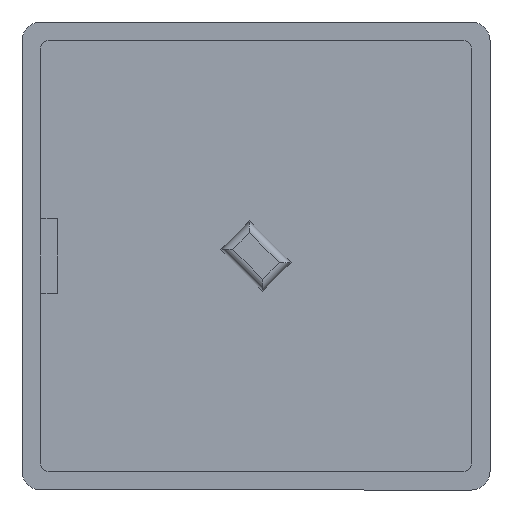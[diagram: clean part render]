
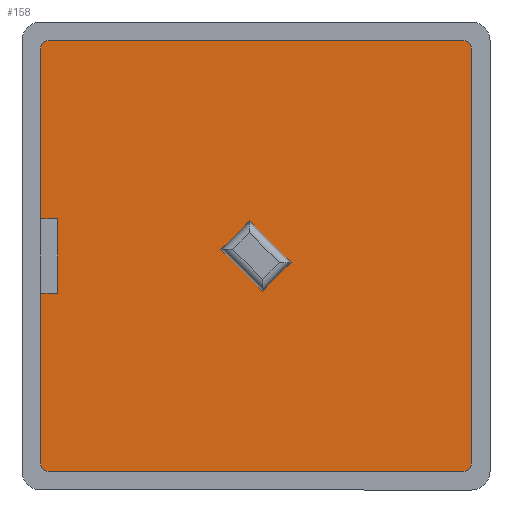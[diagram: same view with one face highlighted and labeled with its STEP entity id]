
A CAD part, front view. The second image highlights one B-rep face of the part: STEP entity #158.
In plain terms, the highlighted planar face has unit normal (0, -1, 0).
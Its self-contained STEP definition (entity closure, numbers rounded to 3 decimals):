
#9 = EDGE_CURVE ( 'NONE', #593, #1173, #801, .T. ) ;
#15 = LINE ( 'NONE', #326, #843 ) ;
#21 = EDGE_CURVE ( 'NONE', #1173, #535, #523, .T. ) ;
#26 = CARTESIAN_POINT ( 'NONE',  ( -23., 0., 22.2 ) ) ;
#36 = EDGE_CURVE ( 'NONE', #684, #535, #492, .T. ) ;
#48 = AXIS2_PLACEMENT_3D ( 'NONE', #352, #256, #247 ) ;
#53 = EDGE_CURVE ( 'NONE', #418, #946, #445, .T. ) ;
#61 = VECTOR ( 'NONE', #1272, 1000. ) ;
#67 = EDGE_CURVE ( 'NONE', #266, #314, #978, .T. ) ;
#72 = ORIENTED_EDGE ( 'NONE', *, *, #89, .F. ) ;
#74 = DIRECTION ( 'NONE',  ( 0., 0., -1. ) ) ;
#84 = VECTOR ( 'NONE', #291, 1000. ) ;
#89 = EDGE_CURVE ( 'NONE', #314, #418, #1183, .T. ) ;
#103 = EDGE_CURVE ( 'NONE', #1000, #793, #390, .T. ) ;
#131 = VECTOR ( 'NONE', #720, 1000. ) ;
#158 = ADVANCED_FACE ( 'NONE', ( #230, #1227 ), #750, .T. ) ;
#172 = ORIENTED_EDGE ( 'NONE', *, *, #756, .T. ) ;
#200 = VECTOR ( 'NONE', #781, 1000. ) ;
#202 = ORIENTED_EDGE ( 'NONE', *, *, #323, .T. ) ;
#216 = CARTESIAN_POINT ( 'NONE',  ( 0.707, 0., -3.748 ) ) ;
#217 = ORIENTED_EDGE ( 'NONE', *, *, #9, .T. ) ;
#221 = CARTESIAN_POINT ( 'NONE',  ( 22.2, 0., 23. ) ) ;
#230 = FACE_OUTER_BOUND ( 'NONE', #576, .T. ) ;
#235 = CARTESIAN_POINT ( 'NONE',  ( -22.2, 0., 23. ) ) ;
#247 = DIRECTION ( 'NONE',  ( 0., 0., -1. ) ) ;
#256 = DIRECTION ( 'NONE',  ( 0., -1., 0. ) ) ;
#259 = ORIENTED_EDGE ( 'NONE', *, *, #496, .T. ) ;
#260 = DIRECTION ( 'NONE',  ( 0., -1., 0. ) ) ;
#266 = VERTEX_POINT ( 'NONE', #927 ) ;
#278 = ORIENTED_EDGE ( 'NONE', *, *, #36, .F. ) ;
#280 = ORIENTED_EDGE ( 'NONE', *, *, #809, .T. ) ;
#285 = AXIS2_PLACEMENT_3D ( 'NONE', #549, #545, #528 ) ;
#291 = DIRECTION ( 'NONE',  ( 0., 0., 1. ) ) ;
#304 = CARTESIAN_POINT ( 'NONE',  ( 23., 0., 22.2 ) ) ;
#314 = VERTEX_POINT ( 'NONE', #644 ) ;
#323 = EDGE_CURVE ( 'NONE', #793, #406, #490, .T. ) ;
#326 = CARTESIAN_POINT ( 'NONE',  ( -22.2, 0., -23. ) ) ;
#346 = ORIENTED_EDGE ( 'NONE', *, *, #748, .F. ) ;
#352 = CARTESIAN_POINT ( 'NONE',  ( -22.2, 0., -22.2 ) ) ;
#357 = ORIENTED_EDGE ( 'NONE', *, *, #21, .T. ) ;
#363 = AXIS2_PLACEMENT_3D ( 'NONE', #816, #717, #711 ) ;
#375 = CARTESIAN_POINT ( 'NONE',  ( -22.2, 0., 22.2 ) ) ;
#390 = LINE ( 'NONE', #304, #84 ) ;
#406 = VERTEX_POINT ( 'NONE', #221 ) ;
#418 = VERTEX_POINT ( 'NONE', #216 ) ;
#433 = DIRECTION ( 'NONE',  ( 1., 0., 0. ) ) ;
#445 = LINE ( 'NONE', #745, #131 ) ;
#457 = DIRECTION ( 'NONE',  ( 0., 0., 1. ) ) ;
#461 = VERTEX_POINT ( 'NONE', #869 ) ;
#463 = CARTESIAN_POINT ( 'NONE',  ( -23., 0., -4. ) ) ;
#490 = CIRCLE ( 'NONE', #285, 0.8 ) ;
#492 = LINE ( 'NONE', #881, #1025 ) ;
#493 = ORIENTED_EDGE ( 'NONE', *, *, #53, .F. ) ;
#496 = EDGE_CURVE ( 'NONE', #764, #1229, #645, .T. ) ;
#499 = EDGE_LOOP ( 'NONE', ( #493, #72, #894, #1049 ) ) ;
#505 = ORIENTED_EDGE ( 'NONE', *, *, #103, .T. ) ;
#523 = LINE ( 'NONE', #26, #776 ) ;
#528 = DIRECTION ( 'NONE',  ( 0., 0., -1. ) ) ;
#531 = CIRCLE ( 'NONE', #48, 0.8 ) ;
#535 = VERTEX_POINT ( 'NONE', #1218 ) ;
#545 = DIRECTION ( 'NONE',  ( 0., -1., 0. ) ) ;
#549 = CARTESIAN_POINT ( 'NONE',  ( 22.2, 0., 22.2 ) ) ;
#559 = CARTESIAN_POINT ( 'NONE',  ( -23., 0., 22.2 ) ) ;
#565 = DIRECTION ( 'NONE',  ( 1., 0., 0. ) ) ;
#567 = ORIENTED_EDGE ( 'NONE', *, *, #876, .T. ) ;
#571 = CARTESIAN_POINT ( 'NONE',  ( 22.2, 0., -23. ) ) ;
#576 = EDGE_LOOP ( 'NONE', ( #346, #944, #259, #172, #1042, #280, #505, #202, #567, #217, #357, #278 ) ) ;
#577 = CARTESIAN_POINT ( 'NONE',  ( -23., 0., -4. ) ) ;
#593 = VERTEX_POINT ( 'NONE', #850 ) ;
#605 = CARTESIAN_POINT ( 'NONE',  ( 23., 0., 22.2 ) ) ;
#606 = CARTESIAN_POINT ( 'NONE',  ( -3.748, 0., 0.707 ) ) ;
#638 = AXIS2_PLACEMENT_3D ( 'NONE', #1077, #1074, #994 ) ;
#644 = CARTESIAN_POINT ( 'NONE',  ( -3.748, 0., 0.707 ) ) ;
#645 = LINE ( 'NONE', #1205, #683 ) ;
#662 = DIRECTION ( 'NONE',  ( 0.707, 0., -0.707 ) ) ;
#683 = VECTOR ( 'NONE', #1278, 1000. ) ;
#684 = VERTEX_POINT ( 'NONE', #758 ) ;
#692 = EDGE_CURVE ( 'NONE', #764, #1164, #1037, .T. ) ;
#711 = DIRECTION ( 'NONE',  ( 0., 0., -1. ) ) ;
#715 = AXIS2_PLACEMENT_3D ( 'NONE', #375, #260, #74 ) ;
#717 = DIRECTION ( 'NONE',  ( 0., -1., 0. ) ) ;
#720 = DIRECTION ( 'NONE',  ( 0.707, 0., 0.707 ) ) ;
#725 = DIRECTION ( 'NONE',  ( -0.707, 0., -0.707 ) ) ;
#738 = VECTOR ( 'NONE', #662, 1000. ) ;
#745 = CARTESIAN_POINT ( 'NONE',  ( 0.707, 0., -3.748 ) ) ;
#747 = VERTEX_POINT ( 'NONE', #571 ) ;
#748 = EDGE_CURVE ( 'NONE', #1164, #684, #1239, .T. ) ;
#749 = CARTESIAN_POINT ( 'NONE',  ( -21.2, 0., 4. ) ) ;
#750 = PLANE ( 'NONE',  #363 ) ;
#756 = EDGE_CURVE ( 'NONE', #1229, #461, #531, .T. ) ;
#758 = CARTESIAN_POINT ( 'NONE',  ( -21.2, 0., 4. ) ) ;
#764 = VERTEX_POINT ( 'NONE', #463 ) ;
#765 = CARTESIAN_POINT ( 'NONE',  ( -3.748, 0., 0.707 ) ) ;
#776 = VECTOR ( 'NONE', #926, 1000. ) ;
#781 = DIRECTION ( 'NONE',  ( -0.707, 0., 0.707 ) ) ;
#788 = VECTOR ( 'NONE', #565, 1000. ) ;
#793 = VERTEX_POINT ( 'NONE', #605 ) ;
#801 = CIRCLE ( 'NONE', #715, 0.8 ) ;
#809 = EDGE_CURVE ( 'NONE', #747, #1000, #987, .T. ) ;
#816 = CARTESIAN_POINT ( 'NONE',  ( -22.2, 0., 22.2 ) ) ;
#843 = VECTOR ( 'NONE', #433, 1000. ) ;
#850 = CARTESIAN_POINT ( 'NONE',  ( -22.2, 0., 23. ) ) ;
#869 = CARTESIAN_POINT ( 'NONE',  ( -22.2, 0., -23. ) ) ;
#876 = EDGE_CURVE ( 'NONE', #406, #593, #1148, .T. ) ;
#881 = CARTESIAN_POINT ( 'NONE',  ( -23., 0., 4. ) ) ;
#894 = ORIENTED_EDGE ( 'NONE', *, *, #67, .F. ) ;
#926 = DIRECTION ( 'NONE',  ( 0., 0., -1. ) ) ;
#927 = CARTESIAN_POINT ( 'NONE',  ( -0.707, 0., 3.748 ) ) ;
#933 = CARTESIAN_POINT ( 'NONE',  ( -21.2, 0., -4. ) ) ;
#934 = VECTOR ( 'NONE', #725, 1000. ) ;
#940 = DIRECTION ( 'NONE',  ( -1., 0., 0. ) ) ;
#944 = ORIENTED_EDGE ( 'NONE', *, *, #692, .F. ) ;
#946 = VERTEX_POINT ( 'NONE', #1213 ) ;
#974 = LINE ( 'NONE', #1064, #200 ) ;
#978 = LINE ( 'NONE', #765, #934 ) ;
#987 = CIRCLE ( 'NONE', #638, 0.8 ) ;
#994 = DIRECTION ( 'NONE',  ( 0., 0., -1. ) ) ;
#1000 = VERTEX_POINT ( 'NONE', #1222 ) ;
#1013 = EDGE_CURVE ( 'NONE', #946, #266, #974, .T. ) ;
#1025 = VECTOR ( 'NONE', #940, 1000. ) ;
#1037 = LINE ( 'NONE', #577, #788 ) ;
#1038 = CARTESIAN_POINT ( 'NONE',  ( -23., 0., -22.2 ) ) ;
#1042 = ORIENTED_EDGE ( 'NONE', *, *, #1078, .T. ) ;
#1049 = ORIENTED_EDGE ( 'NONE', *, *, #1013, .F. ) ;
#1064 = CARTESIAN_POINT ( 'NONE',  ( -0.707, 0., 3.748 ) ) ;
#1074 = DIRECTION ( 'NONE',  ( 0., -1., 0. ) ) ;
#1077 = CARTESIAN_POINT ( 'NONE',  ( 22.2, 0., -22.2 ) ) ;
#1078 = EDGE_CURVE ( 'NONE', #461, #747, #15, .T. ) ;
#1148 = LINE ( 'NONE', #235, #61 ) ;
#1164 = VERTEX_POINT ( 'NONE', #933 ) ;
#1173 = VERTEX_POINT ( 'NONE', #559 ) ;
#1183 = LINE ( 'NONE', #606, #738 ) ;
#1205 = CARTESIAN_POINT ( 'NONE',  ( -23., 0., 22.2 ) ) ;
#1213 = CARTESIAN_POINT ( 'NONE',  ( 3.748, 0., -0.707 ) ) ;
#1218 = CARTESIAN_POINT ( 'NONE',  ( -23., 0., 4. ) ) ;
#1222 = CARTESIAN_POINT ( 'NONE',  ( 23., 0., -22.2 ) ) ;
#1226 = VECTOR ( 'NONE', #457, 1000. ) ;
#1227 = FACE_BOUND ( 'NONE', #499, .T. ) ;
#1229 = VERTEX_POINT ( 'NONE', #1038 ) ;
#1239 = LINE ( 'NONE', #749, #1226 ) ;
#1272 = DIRECTION ( 'NONE',  ( -1., 0., 0. ) ) ;
#1278 = DIRECTION ( 'NONE',  ( 0., 0., -1. ) ) ;
